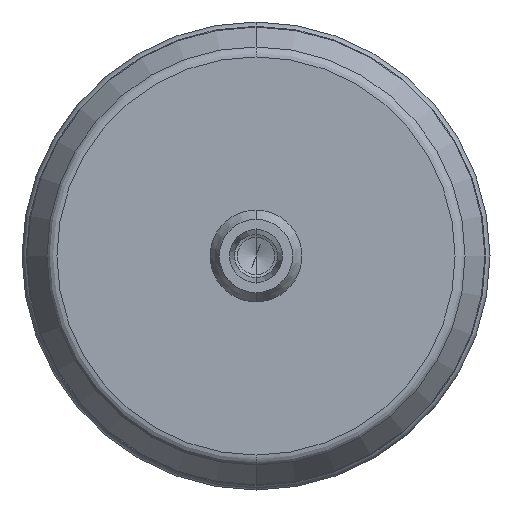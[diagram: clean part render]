
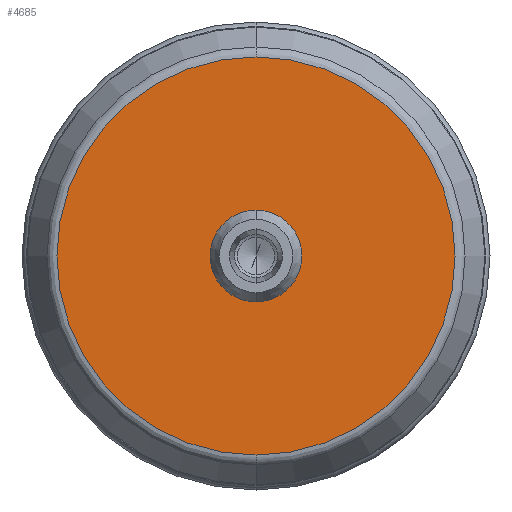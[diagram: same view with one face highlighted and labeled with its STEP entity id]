
A CAD part, front view. The second image highlights one B-rep face of the part: STEP entity #4685.
In plain terms, the highlighted planar face has unit normal (0, -1, 0).
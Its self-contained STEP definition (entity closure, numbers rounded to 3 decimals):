
#39 = FACE_BOUND ( 'NONE', #7379, .T. ) ;
#41 = CARTESIAN_POINT ( 'NONE',  ( 0., -17., -34.67 ) ) ;
#449 = DIRECTION ( 'NONE',  ( 0., -1., 0. ) ) ;
#518 = VERTEX_POINT ( 'NONE', #1696 ) ;
#711 = AXIS2_PLACEMENT_3D ( 'NONE', #5469, #5871, #3111 ) ;
#757 = AXIS2_PLACEMENT_3D ( 'NONE', #8871, #449, #2056 ) ;
#1336 = DIRECTION ( 'NONE',  ( 0., -1., 0. ) ) ;
#1599 = DIRECTION ( 'NONE',  ( 0., -1., 0. ) ) ;
#1696 = CARTESIAN_POINT ( 'NONE',  ( 0., -17., -6. ) ) ;
#1839 = AXIS2_PLACEMENT_3D ( 'NONE', #9087, #3008, #6156 ) ;
#2042 = DIRECTION ( 'NONE',  ( 0., 0., -1. ) ) ;
#2056 = DIRECTION ( 'NONE',  ( 0., 0., -1. ) ) ;
#2350 = CARTESIAN_POINT ( 'NONE',  ( 34.67, -17., 0. ) ) ;
#2435 = VERTEX_POINT ( 'NONE', #7375 ) ;
#2564 = CARTESIAN_POINT ( 'NONE',  ( 0., -17., 34.67 ) ) ;
#2889 = EDGE_CURVE ( 'NONE', #4212, #5402, #9368, .T. ) ;
#3008 = DIRECTION ( 'NONE',  ( 0., -1., 0. ) ) ;
#3111 = DIRECTION ( 'NONE',  ( 0., 0., -1. ) ) ;
#3523 = CARTESIAN_POINT ( 'NONE',  ( 0., -17., 0. ) ) ;
#4212 = VERTEX_POINT ( 'NONE', #41 ) ;
#4456 = ORIENTED_EDGE ( 'NONE', *, *, #7792, .F. ) ;
#4646 = DIRECTION ( 'NONE',  ( 0., 0., -1. ) ) ;
#4685 = ADVANCED_FACE ( 'NONE', ( #6869, #39 ), #5450, .T. ) ;
#4760 = EDGE_LOOP ( 'NONE', ( #7943, #7155 ) ) ;
#4866 = CIRCLE ( 'NONE', #1839, 6. ) ;
#5295 = EDGE_CURVE ( 'NONE', #2435, #518, #6998, .T. ) ;
#5402 = VERTEX_POINT ( 'NONE', #2564 ) ;
#5450 = PLANE ( 'NONE',  #6222 ) ;
#5469 = CARTESIAN_POINT ( 'NONE',  ( 0., -17., 0. ) ) ;
#5871 = DIRECTION ( 'NONE',  ( 0., -1., 0. ) ) ;
#6156 = DIRECTION ( 'NONE',  ( 0., 0., -1. ) ) ;
#6222 = AXIS2_PLACEMENT_3D ( 'NONE', #2350, #1599, #4646 ) ;
#6869 = FACE_OUTER_BOUND ( 'NONE', #4760, .T. ) ;
#6998 = CIRCLE ( 'NONE', #8283, 6. ) ;
#7155 = ORIENTED_EDGE ( 'NONE', *, *, #8090, .T. ) ;
#7375 = CARTESIAN_POINT ( 'NONE',  ( 0., -17., 6. ) ) ;
#7379 = EDGE_LOOP ( 'NONE', ( #4456, #9596 ) ) ;
#7735 = CIRCLE ( 'NONE', #711, 34.67 ) ;
#7792 = EDGE_CURVE ( 'NONE', #518, #2435, #4866, .T. ) ;
#7943 = ORIENTED_EDGE ( 'NONE', *, *, #2889, .T. ) ;
#8090 = EDGE_CURVE ( 'NONE', #5402, #4212, #7735, .T. ) ;
#8283 = AXIS2_PLACEMENT_3D ( 'NONE', #3523, #1336, #2042 ) ;
#8871 = CARTESIAN_POINT ( 'NONE',  ( 0., -17., 0. ) ) ;
#9087 = CARTESIAN_POINT ( 'NONE',  ( 0., -17., 0. ) ) ;
#9368 = CIRCLE ( 'NONE', #757, 34.67 ) ;
#9596 = ORIENTED_EDGE ( 'NONE', *, *, #5295, .F. ) ;
